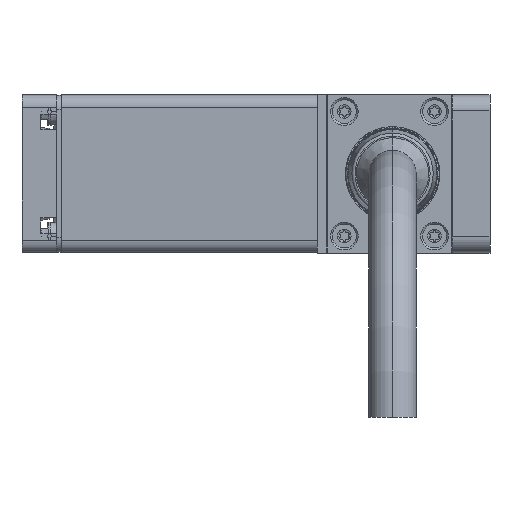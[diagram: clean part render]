
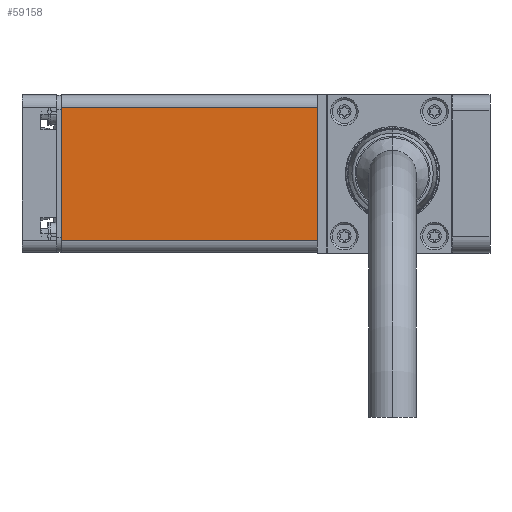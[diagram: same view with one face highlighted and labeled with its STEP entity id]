
A CAD part, left-side view. The second image highlights one B-rep face of the part: STEP entity #59158.
In plain terms, the highlighted planar face has unit normal (-1, 0, 0).
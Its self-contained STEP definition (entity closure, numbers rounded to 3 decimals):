
#17440=DIRECTION('',(0.,0.,1.));
#17441=VECTOR('',#17440,21.15);
#17442=CARTESIAN_POINT('',(-12.575,-9.7,-10.575));
#17443=LINE('',#17442,#17441);
#19671=DIRECTION('',(0.,1.,0.));
#19672=VECTOR('',#19671,62.2);
#19673=CARTESIAN_POINT('',(-12.575,-9.7,-10.575));
#19674=LINE('',#19673,#19672);
#19675=DIRECTION('',(0.,0.,1.));
#19676=VECTOR('',#19675,21.15);
#19677=CARTESIAN_POINT('',(-12.575,52.5,-10.575));
#19678=LINE('',#19677,#19676);
#19679=DIRECTION('',(0.,-1.,0.));
#19680=VECTOR('',#19679,62.2);
#19681=CARTESIAN_POINT('',(-12.575,52.5,10.575));
#19682=LINE('',#19681,#19680);
#26093=CARTESIAN_POINT('',(-12.575,52.5,10.575));
#26095=VERTEX_POINT('',#26093);
#26098=CARTESIAN_POINT('',(-12.575,52.5,-10.575));
#26100=VERTEX_POINT('',#26098);
#26121=CARTESIAN_POINT('',(-12.575,-9.7,-10.575));
#26122=CARTESIAN_POINT('',(-12.575,-9.7,10.575));
#26123=VERTEX_POINT('',#26121);
#26124=VERTEX_POINT('',#26122);
#59145=CARTESIAN_POINT('',(-12.575,52.5,-12.575));
#59146=DIRECTION('',(-1.,0.,0.));
#59147=DIRECTION('',(0.,-1.,0.));
#59148=AXIS2_PLACEMENT_3D('',#59145,#59146,#59147);
#59149=PLANE('',#59148);
#59150=ORIENTED_EDGE('',*,*,#57229,.F.);
#59152=ORIENTED_EDGE('',*,*,#59151,.T.);
#59154=ORIENTED_EDGE('',*,*,#59153,.T.);
#59155=ORIENTED_EDGE('',*,*,#59137,.T.);
#59156=EDGE_LOOP('',(#59150,#59152,#59154,#59155));
#59157=FACE_OUTER_BOUND('',#59156,.F.);
#59158=ADVANCED_FACE('',(#59157),#59149,.T.);
#57229=EDGE_CURVE('',#26123,#26124,#17443,.T.);
#59137=EDGE_CURVE('',#26095,#26124,#19682,.T.);
#59151=EDGE_CURVE('',#26123,#26100,#19674,.T.);
#59153=EDGE_CURVE('',#26100,#26095,#19678,.T.);
